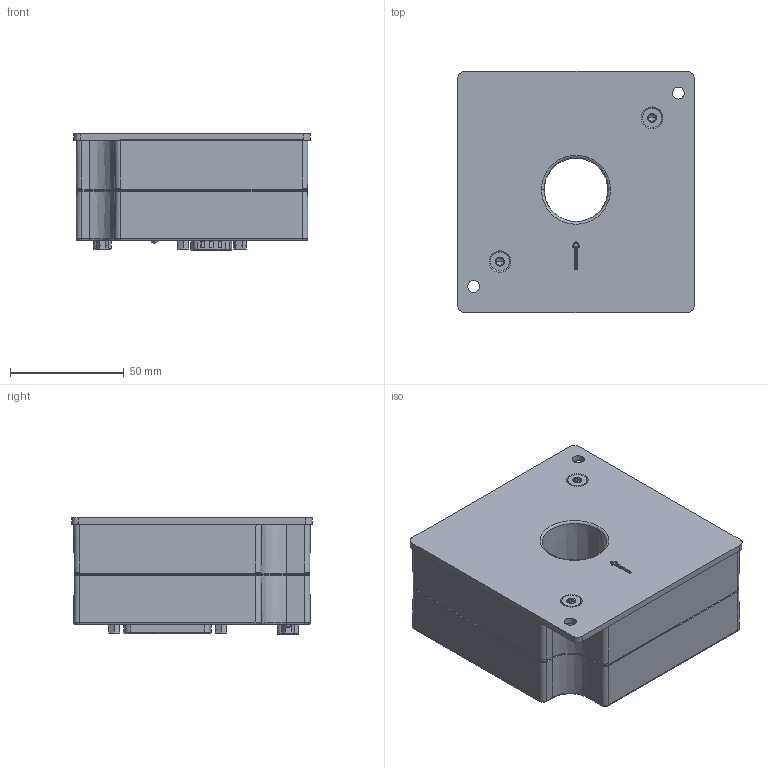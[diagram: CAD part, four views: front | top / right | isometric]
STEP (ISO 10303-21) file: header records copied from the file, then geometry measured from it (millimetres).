
FILE_DESCRIPTION (( 'STEP AP214' ), '1' );
FILE_NAME ('1211100001.STEP', '2025-10-09T12:51:30', ( '' ), ( '' ), 'SwSTEP 2.0', 'SolidWorks 2022', '' );
FILE_SCHEMA (( 'AUTOMOTIVE_DESIGN' ));
Length unit declared in the file: millimetre
Products named in the file (1): 1211100001
Bounding box: 104 x 106 x 51.36 mm (x, y, z)
Volume: 125978 mm3; surface area: 131854.9 mm2
Topology: 14 solids, 16 shells, 3889 faces, 10450 edges, 6646 vertices
Faces by surface type: plane 1862, cylinder 862, bspline 595, cone 308, torus 184, sphere 78
Entity records: 194799 total; most frequent: CARTESIAN_POINT 59730, ORIENTED_EDGE 20740, DIRECTION 16960, EDGE_CURVE 10370, VERTEX_POINT 6636, VECTOR 5762, LINE 5762, AXIS2_PLACEMENT_3D 5599
